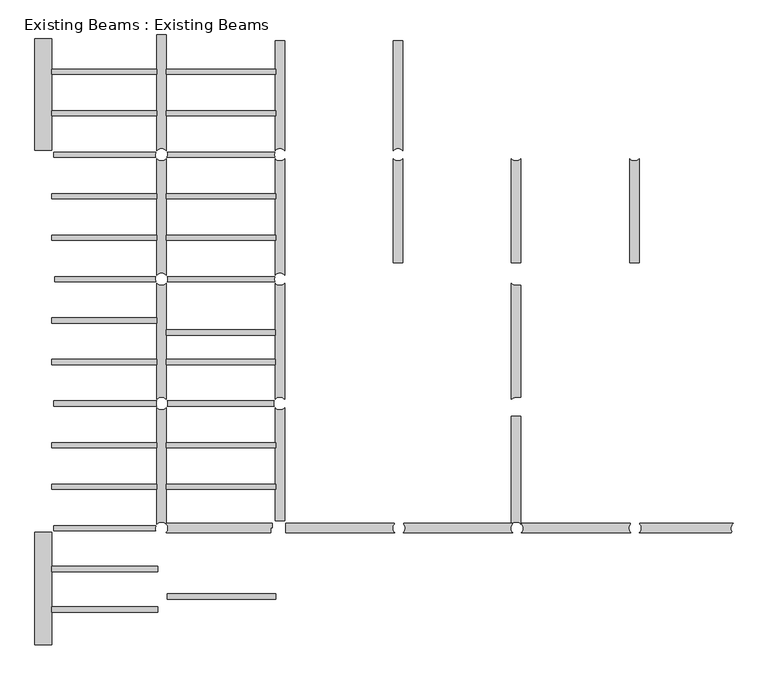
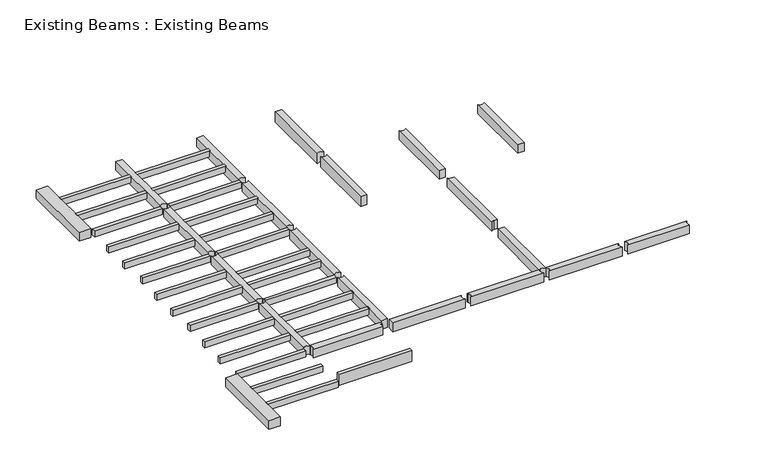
"""IFC4 building model written with IfcOpenShell, lengths in millimetres: beam geometry, Existing Beams : Existing Beams."""

from ifc_helpers import new_model, si_unit, point, frame, frame_2d, origin, place, context, project, spatial, polyline, circle_curve, trimmed, segment, composite_curve, outline, extrude, source, transform, mapped, element, save


def existing_beams_existing_beams_ab87c5f7(model_context):
    return source(origin(), model_context, "Body", "SweptSolid", [
        extrude(outline(composite_curve([segment(polyline([(13097.3653909, 93033.4914396), (8653.1375852, 93033.4914396)]), True, "CONTINUOUS"), segment(trimmed(circle_curve(frame_2d((8446.3971305, 93257.4589024)), 304.8), [point((8653.1375852, 93033.4914396))], [point((8674.9971305, 93459.0651523))], True, "CARTESIAN"), True, "CONTINUOUS"), segment(polyline([(8674.9971305, 93459.0651523), (8674.9971305, 93490.6914396), (13181.7624423, 93490.6914396)]), True, "CONTINUOUS"), segment(trimmed(circle_curve(frame_2d((13377.9909408, 93257.4589024)), 304.8), [point((13181.7624423, 93490.6914396))], [point((13112.6431486, 93107.4802734))], True, "CARTESIAN"), True, "CONTINUOUS"), segment(polyline([(13112.6431486, 93107.4802734), (13097.3653909, 93033.4914396)]), True, "CONTINUOUS")], self_intersect=False)), frame((0.0, 0.0, 2984.5), z_axis=(0.0, 0.0, 1.0), x_axis=(1.0, 0.0, 0.0)), (0.0, 0.0, 1.0), 673.1),
        extrude(outline(composite_curve([segment(trimmed(circle_curve(frame_2d((2731.3971305, 93257.4589024)), 304.8), [point((2938.1375852, 93033.4914396))], [point((2959.9971305, 93459.0651523))], True, "CARTESIAN"), True, "CONTINUOUS"), segment(polyline([(2959.9971305, 93459.0651523), (2959.9971305, 93490.6914396), (8217.7971305, 93490.6914396), (8217.7971305, 93459.0651523)]), True, "CONTINUOUS"), segment(trimmed(circle_curve(frame_2d((8446.3971305, 93257.4589024)), 304.8), [point((8217.7971305, 93459.0651523))], [point((8239.6566758, 93033.4914396))], True, "CARTESIAN"), True, "CONTINUOUS"), segment(polyline([(8239.6566758, 93033.4914396), (2938.1375852, 93033.4914396)]), True, "CONTINUOUS")], self_intersect=False)), frame((0.0, 0.0, 2984.5), z_axis=(0.0, 0.0, 1.0), x_axis=(1.0, 0.0, 0.0)), (0.0, 0.0, 1.0), 673.1),
        extrude(outline(composite_curve([segment(polyline([(2524.6566758, 93033.4914396), (-2776.8624148, 93033.4914396)]), True, "CONTINUOUS"), segment(trimmed(circle_curve(frame_2d((-2983.6028695, 93257.4589024)), 304.8), [point((-2776.8624148, 93033.4914396))], [point((-2755.0028695, 93459.0651523))], True, "CARTESIAN"), True, "CONTINUOUS"), segment(polyline([(-2755.0028695, 93459.0651523), (-2755.0028695, 93490.6914396), (2502.7971305, 93490.6914396), (2502.7971305, 93459.0651523)]), True, "CONTINUOUS"), segment(trimmed(circle_curve(frame_2d((2731.3971305, 93257.4589024)), 304.8), [point((2502.7971305, 93459.0651523))], [point((2524.6566758, 93033.4914396))], True, "CARTESIAN"), True, "CONTINUOUS")], self_intersect=False)), frame((0.0, 0.0, 2984.5), z_axis=(0.0, 0.0, 1.0), x_axis=(1.0, 0.0, 0.0)), (0.0, 0.0, 1.0), 673.1),
        extrude(outline(composite_curve([segment(polyline([(-8457.2962067, 93033.4914396), (-8457.2962067, 93490.6914396), (-3212.2028695, 93490.6914396), (-3212.2028695, 93459.0651523)]), True, "CONTINUOUS"), segment(trimmed(circle_curve(frame_2d((-2983.6028695, 93257.4589024)), 304.8), [point((-3212.2028695, 93459.0651523))], [point((-3190.3433242, 93033.4914396))], True, "CARTESIAN"), True, "CONTINUOUS"), segment(polyline([(-3190.3433242, 93033.4914396), (-8457.2962067, 93033.4914396)]), True, "CONTINUOUS")], self_intersect=False)), frame((0.0, 0.0, 2984.5), z_axis=(0.0, 0.0, 1.0), x_axis=(1.0, 0.0, 0.0)), (0.0, 0.0, 1.0), 673.1),
        extrude(outline(polyline([(-8927.2028695, 89833.0914396), (-14185.0028695, 89833.0914396), (-14185.0028695, 90087.0914396), (-8927.2028695, 90087.0914396), (-8927.2028695, 89833.0914396)])), frame((0.0, 0.0, 2794.0), z_axis=(0.0, 0.0, 1.0), x_axis=(1.0, 0.0, 0.0)), (0.0, 0.0, 1.0), 863.6),
        extrude(outline(composite_curve([segment(polyline([(-9187.1357171, 93033.4914396), (-14227.0509089, 93033.4914396), (-14227.0509089, 93055.8526525)]), True, "CONTINUOUS"), segment(trimmed(circle_curve(frame_2d((-14455.6509089, 93257.4589024)), 304.8), [point((-14227.0509089, 93055.8526525))], [point((-14227.0509089, 93459.0651523))], True, "CARTESIAN"), True, "CONTINUOUS"), segment(polyline([(-14227.0509089, 93459.0651523), (-14227.0509089, 93490.6914396), (-9093.1987679, 93490.6914396), (-9093.1987679, 93272.4591334), (-9187.1357171, 93272.4591334), (-9187.1357171, 93033.4914396)]), True, "CONTINUOUS")], self_intersect=False)), frame((0.0, 0.0, 2984.5), z_axis=(0.0, 0.0, 1.0), x_axis=(1.0, 0.0, 0.0)), (0.0, 0.0, 1.0), 673.1),
        extrude(outline(polyline([(-8927.2028695, 97148.2914396), (-14227.0509089, 97148.2914396), (-14227.0509089, 97402.2914396), (-8927.2028695, 97402.2914396), (-8927.2028695, 97148.2914396)])), frame((0.0, 0.0, 3200.4), z_axis=(0.0, 0.0, 1.0), x_axis=(1.0, 0.0, 0.0)), (0.0, 0.0, 1.0), 457.2),
        extrude(outline(polyline([(-8927.2028695, 95141.6914396), (-14227.0509089, 95141.6914396), (-14227.0509089, 95395.6914396), (-8927.2028695, 95395.6914396), (-8927.2028695, 95141.6914396)])), frame((0.0, 0.0, 3200.4), z_axis=(0.0, 0.0, 1.0), x_axis=(1.0, 0.0, 0.0)), (0.0, 0.0, 1.0), 457.2),
        extrude(outline(polyline([(-8969.2509089, 102594.2591334), (-14227.0509089, 102594.2591334), (-14227.0509089, 102848.2591334), (-8969.2509089, 102848.2591334), (-8969.2509089, 102594.2591334)])), frame((0.0, 0.0, 3200.4), z_axis=(0.0, 0.0, 1.0), x_axis=(1.0, 0.0, 0.0)), (0.0, 0.0, 1.0), 457.2),
        extrude(outline(polyline([(-8969.2509089, 101171.8591334), (-14227.0509089, 101171.8591334), (-14227.0509089, 101425.8591334), (-8969.2509089, 101425.8591334), (-8969.2509089, 101171.8591334)])), frame((0.0, 0.0, 3200.4), z_axis=(0.0, 0.0, 1.0), x_axis=(1.0, 0.0, 0.0)), (0.0, 0.0, 1.0), 457.2),
        extrude(outline(composite_curve([segment(polyline([(-9019.5481002, 99165.2591334), (-14176.3131951, 99165.2591334)]), True, "CONTINUOUS"), segment(trimmed(circle_curve(frame_2d((-14458.5510866, 99280.345243)), 304.8), [point((-14176.3131951, 99165.2591334))], [point((-14187.2468827, 99419.2591334))], True, "CARTESIAN"), True, "CONTINUOUS"), segment(polyline([(-14187.2468827, 99419.2591334), (-9015.9229109, 99419.2591334)]), True, "CONTINUOUS"), segment(trimmed(circle_curve(frame_2d((-8740.6883627, 99288.3050061)), 304.8), [point((-9015.9229109, 99419.2591334))], [point((-9019.5481002, 99165.2591334))], True, "CARTESIAN"), True, "CONTINUOUS")], self_intersect=False)), frame((0.0, 0.0, 3200.4), z_axis=(0.0, 0.0, 1.0), x_axis=(1.0, 0.0, 0.0)), (0.0, 0.0, 1.0), 457.2),
        extrude(outline(polyline([(-8927.2028695, 109191.9091334), (-14227.0509089, 109191.9091334), (-14227.0509089, 109445.9091334), (-8927.2028695, 109445.9091334), (-8927.2028695, 109191.9091334)])), frame((0.0, 0.0, 3200.4), z_axis=(0.0, 0.0, 1.0), x_axis=(1.0, 0.0, 0.0)), (0.0, 0.0, 1.0), 457.2),
        extrude(outline(polyline([(-8927.2028695, 107185.3091334), (-14227.0509089, 107185.3091334), (-14227.0509089, 107439.3091334), (-8927.2028695, 107439.3091334), (-8927.2028695, 107185.3091334)])), frame((0.0, 0.0, 3200.4), z_axis=(0.0, 0.0, 1.0), x_axis=(1.0, 0.0, 0.0)), (0.0, 0.0, 1.0), 457.2),
        extrude(outline(composite_curve([segment(polyline([(-8976.7683915, 105178.7091334), (-14180.2603927, 105178.7091334)]), True, "CONTINUOUS"), segment(trimmed(circle_curve(frame_2d((-14454.8853605, 105310.9368426)), 304.8), [point((-14180.2603927, 105178.7091334))], [point((-14175.467127, 105432.7091334))], True, "CARTESIAN"), True, "CONTINUOUS"), segment(polyline([(-14175.467127, 105432.7091334), (-8974.5749196, 105432.7091334)]), True, "CONTINUOUS"), segment(trimmed(circle_curve(frame_2d((-8698.6028695, 105303.3164461)), 304.8), [point((-8974.5749196, 105432.7091334))], [point((-8976.7683915, 105178.7091334))], True, "CARTESIAN"), True, "CONTINUOUS")], self_intersect=False)), frame((0.0, 0.0, 3200.4), z_axis=(0.0, 0.0, 1.0), x_axis=(1.0, 0.0, 0.0)), (0.0, 0.0, 1.0), 457.2),
        extrude(outline(polyline([(-8927.2028695, 115211.4141363), (-14227.0509089, 115211.4141363), (-14227.0509089, 115465.4141363), (-8927.2028695, 115465.4141363), (-8927.2028695, 115211.4141363)])), frame((0.0, 0.0, 3200.4), z_axis=(0.0, 0.0, 1.0), x_axis=(1.0, 0.0, 0.0)), (0.0, 0.0, 1.0), 457.2),
        extrude(outline(polyline([(-8927.2028695, 113204.8141363), (-14227.0509089, 113204.8141363), (-14227.0509089, 113458.8141363), (-8927.2028695, 113458.8141363), (-8927.2028695, 113204.8141363)])), frame((0.0, 0.0, 3200.4), z_axis=(0.0, 0.0, 1.0), x_axis=(1.0, 0.0, 0.0)), (0.0, 0.0, 1.0), 457.2),
        extrude(outline(composite_curve([segment(polyline([(-8975.6841572, 111198.2141363), (-14200.8014502, 111198.2141363)]), True, "CONTINUOUS"), segment(trimmed(circle_curve(frame_2d((-14465.551589, 111349.2452721)), 304.8), [point((-14200.8014502, 111198.2141363))], [point((-14178.6710337, 111452.2141363))], True, "CARTESIAN"), True, "CONTINUOUS"), segment(polyline([(-14178.6710337, 111452.2141363), (-8975.6841572, 111452.2141363)]), True, "CONTINUOUS"), segment(trimmed(circle_curve(frame_2d((-8698.6028695, 111325.2141363)), 304.8), [point((-8975.6841572, 111452.2141363))], [point((-8975.6841572, 111198.2141363))], True, "CARTESIAN"), True, "CONTINUOUS")], self_intersect=False)), frame((0.0, 0.0, 3200.4), z_axis=(0.0, 0.0, 1.0), x_axis=(1.0, 0.0, 0.0)), (0.0, 0.0, 1.0), 457.2),
        extrude(outline(polyline([(-19773.0028695, 115211.4141363), (-19773.0028695, 115465.4141363), (-14684.2509089, 115465.4141363), (-14684.2509089, 115211.4141363), (-19773.0028695, 115211.4141363)])), frame((0.0, 0.0, 3200.4), z_axis=(0.0, 0.0, 1.0), x_axis=(1.0, 0.0, 0.0)), (0.0, 0.0, 1.0), 457.2),
        extrude(outline(polyline([(-19773.0028695, 113204.8141363), (-19773.0028695, 113458.8141363), (-14684.2509089, 113458.8141363), (-14684.2509089, 113204.8141363), (-19773.0028695, 113204.8141363)])), frame((0.0, 0.0, 3200.4), z_axis=(0.0, 0.0, 1.0), x_axis=(1.0, 0.0, 0.0)), (0.0, 0.0, 1.0), 457.2),
        extrude(outline(polyline([(-19773.0028695, 109191.9091334), (-19773.0028695, 109445.9091334), (-14684.2509089, 109445.9091334), (-14684.2509089, 109191.9091334), (-19773.0028695, 109191.9091334)])), frame((0.0, 0.0, 3200.4), z_axis=(0.0, 0.0, 1.0), x_axis=(1.0, 0.0, 0.0)), (0.0, 0.0, 1.0), 457.2),
        extrude(outline(polyline([(-19773.0028695, 107185.3091334), (-19773.0028695, 107439.3091334), (-14684.2509089, 107439.3091334), (-14684.2509089, 107185.3091334), (-19773.0028695, 107185.3091334)])), frame((0.0, 0.0, 3200.4), z_axis=(0.0, 0.0, 1.0), x_axis=(1.0, 0.0, 0.0)), (0.0, 0.0, 1.0), 457.2),
        extrude(outline(polyline([(-19773.0028695, 103178.4591334), (-19773.0028695, 103432.4591334), (-14684.2509089, 103432.4591334), (-14684.2509089, 103178.4591334), (-19773.0028695, 103178.4591334)])), frame((0.0, 0.0, 3200.4), z_axis=(0.0, 0.0, 1.0), x_axis=(1.0, 0.0, 0.0)), (0.0, 0.0, 1.0), 457.2),
        extrude(outline(polyline([(-19773.0028695, 101171.8591334), (-19773.0028695, 101425.8591334), (-14684.2509089, 101425.8591334), (-14684.2509089, 101171.8591334), (-19773.0028695, 101171.8591334)])), frame((0.0, 0.0, 3200.4), z_axis=(0.0, 0.0, 1.0), x_axis=(1.0, 0.0, 0.0)), (0.0, 0.0, 1.0), 457.2),
        extrude(outline(polyline([(-19773.0028695, 97148.2914396), (-19773.0028695, 97402.2914396), (-14684.2509089, 97402.2914396), (-14684.2509089, 97148.2914396), (-19773.0028695, 97148.2914396)])), frame((0.0, 0.0, 3200.4), z_axis=(0.0, 0.0, 1.0), x_axis=(1.0, 0.0, 0.0)), (0.0, 0.0, 1.0), 457.2),
        extrude(outline(composite_curve([segment(polyline([(-19665.0528695, 111198.2141363), (-19665.0528695, 111452.2141363), (-14733.2158922, 111452.2141363)]), True, "CONTINUOUS"), segment(trimmed(circle_curve(frame_2d((-14457.3103546, 111322.679684)), 304.8), [point((-14733.2158922, 111452.2141363))], [point((-14735.5393384, 111198.2141363))], True, "CARTESIAN"), True, "CONTINUOUS"), segment(polyline([(-14735.5393384, 111198.2141363), (-19665.0528695, 111198.2141363)]), True, "CONTINUOUS")], self_intersect=False)), frame((0.0, 0.0, 3200.4), z_axis=(0.0, 0.0, 1.0), x_axis=(1.0, 0.0, 0.0)), (0.0, 0.0, 1.0), 457.2),
        extrude(outline(composite_curve([segment(polyline([(-19623.4200522, 105178.7091334), (-19623.4200522, 105432.7091334), (-14735.0660649, 105432.7091334)]), True, "CONTINUOUS"), segment(trimmed(circle_curve(frame_2d((-14456.9784287, 105307.928099)), 304.8), [point((-14735.0660649, 105432.7091334))], [point((-14733.0318636, 105178.7091334))], True, "CARTESIAN"), True, "CONTINUOUS"), segment(polyline([(-14733.0318636, 105178.7091334), (-19623.4200522, 105178.7091334)]), True, "CONTINUOUS")], self_intersect=False)), frame((0.0, 0.0, 3200.4), z_axis=(0.0, 0.0, 1.0), x_axis=(1.0, 0.0, 0.0)), (0.0, 0.0, 1.0), 457.2),
        extrude(outline(composite_curve([segment(polyline([(-19665.0528695, 99165.2591334), (-19665.0528695, 99419.2591334), (-14689.8212676, 99419.2591334)]), True, "CONTINUOUS"), segment(trimmed(circle_curve(frame_2d((-14413.6028695, 99290.3931698)), 304.8), [point((-14689.8212676, 99419.2591334))], [point((-14691.5318405, 99165.2591334))], True, "CARTESIAN"), True, "CONTINUOUS"), segment(polyline([(-14691.5318405, 99165.2591334), (-19665.0528695, 99165.2591334)]), True, "CONTINUOUS")], self_intersect=False)), frame((0.0, 0.0, 3200.4), z_axis=(0.0, 0.0, 1.0), x_axis=(1.0, 0.0, 0.0)), (0.0, 0.0, 1.0), 457.2),
        extrude(outline(polyline([(-19757.9009089, 89198.0914396), (-19757.9009089, 89452.0914396), (-14642.2028695, 89452.0914396), (-14642.2028695, 89198.0914396), (-19757.9009089, 89198.0914396)])), frame((0.0, 0.0, 3200.4), z_axis=(0.0, 0.0, 1.0), x_axis=(1.0, 0.0, 0.0)), (0.0, 0.0, 1.0), 457.2),
        extrude(outline(polyline([(-19757.9009089, 91166.5914396), (-19757.9009089, 91420.5914396), (-14642.2028695, 91420.5914396), (-14642.2028695, 91166.5914396), (-19757.9009089, 91166.5914396)])), frame((0.0, 0.0, 3200.4), z_axis=(0.0, 0.0, 1.0), x_axis=(1.0, 0.0, 0.0)), (0.0, 0.0, 1.0), 457.2),
        extrude(outline(polyline([(-19773.0028695, 95141.6914396), (-19773.0028695, 95395.6914396), (-14684.2509089, 95395.6914396), (-14684.2509089, 95141.6914396), (-19773.0028695, 95141.6914396)])), frame((0.0, 0.0, 3200.4), z_axis=(0.0, 0.0, 1.0), x_axis=(1.0, 0.0, 0.0)), (0.0, 0.0, 1.0), 457.2),
        extrude(outline(composite_curve([segment(polyline([(-19665.0528695, 93135.0914396), (-19665.0528695, 93389.0914396), (-14730.5616492, 93389.0914396)]), True, "CONTINUOUS"), segment(trimmed(circle_curve(frame_2d((-14455.6509089, 93257.4589024)), 304.8), [point((-14730.5616492, 93389.0914396))], [point((-14734.8090076, 93135.0914396))], True, "CARTESIAN"), True, "CONTINUOUS"), segment(polyline([(-14734.8090076, 93135.0914396), (-19665.0528695, 93135.0914396)]), True, "CONTINUOUS")], self_intersect=False)), frame((0.0, 0.0, 3200.4), z_axis=(0.0, 0.0, 1.0), x_axis=(1.0, 0.0, 0.0)), (0.0, 0.0, 1.0), 457.2),
        extrude(outline(composite_curve([segment(polyline([(8632.9490911, 106091.4320808), (8175.7490911, 106091.4320808), (8175.7490911, 111123.6078864)]), True, "CONTINUOUS"), segment(trimmed(circle_curve(frame_2d((8404.3490911, 111325.2141363)), 304.8), [point((8175.7490911, 111123.6078864))], [point((8632.9490911, 111123.6078864))], True, "CARTESIAN"), True, "CONTINUOUS"), segment(polyline([(8632.9490911, 111123.6078864), (8632.9490911, 106091.4320808)]), True, "CONTINUOUS")], self_intersect=False)), frame((0.0, 0.0, 2997.2), z_axis=(0.0, 0.0, 1.0), x_axis=(1.0, 0.0, 0.0)), (0.0, 0.0, 1.0), 660.4),
        extrude(outline(composite_curve([segment(polyline([(2460.7490911, 98674.6320808), (2917.9490911, 98674.6320808), (2917.9490911, 93456.6230456)]), True, "CONTINUOUS"), segment(trimmed(circle_curve(frame_2d((2689.3490911, 93262.0914396)), 300.1674628), [point((2917.9490911, 93456.6230456))], [point((2460.7490911, 93456.6230456))], True, "CARTESIAN"), True, "CONTINUOUS"), segment(polyline([(2460.7490911, 93456.6230456), (2460.7490911, 98674.6320808)]), True, "CONTINUOUS")], self_intersect=False)), frame((0.0, 0.0, 2984.5), z_axis=(0.0, 0.0, 1.0), x_axis=(1.0, 0.0, 0.0)), (0.0, 0.0, 1.0), 673.1),
        extrude(outline(composite_curve([segment(polyline([(2917.9490911, 106091.4320808), (2460.7490911, 106091.4320808), (2460.7490911, 111123.6078864)]), True, "CONTINUOUS"), segment(trimmed(circle_curve(frame_2d((2689.3490911, 111325.2141363)), 304.8), [point((2460.7490911, 111123.6078864))], [point((2917.9490911, 111123.6078864))], True, "CARTESIAN"), True, "CONTINUOUS"), segment(polyline([(2917.9490911, 111123.6078864), (2917.9490911, 106091.4320808)]), True, "CONTINUOUS")], self_intersect=False)), frame((0.0, 0.0, 2984.5), z_axis=(0.0, 0.0, 1.0), x_axis=(1.0, 0.0, 0.0)), (0.0, 0.0, 1.0), 673.1),
        extrude(outline(composite_curve([segment(polyline([(2658.56302, 104999.3579212), (2917.9490911, 104999.3579212), (2917.9490911, 99597.0591334), (2689.3530384, 99597.0591334)]), True, "CONTINUOUS"), segment(trimmed(circle_curve(frame_2d((2689.3530384, 99292.2591334)), 304.8), [point((2689.3530384, 99597.0591334))], [point((2460.7490911, 99493.8609074))], True, "CARTESIAN"), True, "CONTINUOUS"), segment(polyline([(2460.7490911, 99493.8609074), (2460.7490911, 105100.2184681)]), True, "CONTINUOUS"), segment(trimmed(circle_curve(frame_2d((2689.3530384, 105304.1579212)), 306.3512122), [point((2460.7490911, 105100.2184681))], [point((2658.56302, 104999.3579212))], True, "CARTESIAN"), True, "CONTINUOUS")], self_intersect=False)), frame((0.0, 0.0, 2984.5), z_axis=(0.0, 0.0, 1.0), x_axis=(1.0, 0.0, 0.0)), (0.0, 0.0, 1.0), 673.1),
        extrude(outline(composite_curve([segment(polyline([(-2797.0509089, 116831.1805877), (-2797.0509089, 111526.8203862)]), True, "CONTINUOUS"), segment(trimmed(circle_curve(frame_2d((-3025.6509089, 111325.2141363)), 304.8), [point((-2797.0509089, 111526.8203862))], [point((-3254.2509089, 111526.8203862))], True, "CARTESIAN"), True, "CONTINUOUS"), segment(polyline([(-3254.2509089, 111526.8203862), (-3254.2509089, 116831.1805877), (-2797.0509089, 116831.1805877)]), True, "CONTINUOUS")], self_intersect=False)), frame((0.0, 0.0, 2882.9), z_axis=(0.0, 0.0, 1.0), x_axis=(1.0, 0.0, 0.0)), (0.0, 0.0, 1.0), 774.7),
        extrude(outline(composite_curve([segment(polyline([(-2797.0509089, 106091.4320808), (-3254.2509089, 106091.4320808), (-3254.2509089, 111123.6078864)]), True, "CONTINUOUS"), segment(trimmed(circle_curve(frame_2d((-3025.6509089, 111325.2141363)), 304.8), [point((-3254.2509089, 111123.6078864))], [point((-2797.0509089, 111123.6078864))], True, "CARTESIAN"), True, "CONTINUOUS"), segment(polyline([(-2797.0509089, 111123.6078864), (-2797.0509089, 106091.4320808)]), True, "CONTINUOUS")], self_intersect=False)), frame((0.0, 0.0, 2882.9), z_axis=(0.0, 0.0, 1.0), x_axis=(1.0, 0.0, 0.0)), (0.0, 0.0, 1.0), 774.7),
        extrude(outline(composite_curve([segment(polyline([(-8512.0509089, 116831.1805877), (-8512.0509089, 111526.8203862)]), True, "CONTINUOUS"), segment(trimmed(circle_curve(frame_2d((-8740.6509089, 111325.2141363)), 304.8), [point((-8512.0509089, 111526.8203862))], [point((-8969.2509089, 111526.8203862))], True, "CARTESIAN"), True, "CONTINUOUS"), segment(polyline([(-8969.2509089, 111526.8203862), (-8969.2509089, 116831.1805877), (-8512.0509089, 116831.1805877)]), True, "CONTINUOUS")], self_intersect=False)), frame((0.0, 0.0, 2984.5), z_axis=(0.0, 0.0, 1.0), x_axis=(1.0, 0.0, 0.0)), (0.0, 0.0, 1.0), 673.1),
        extrude(outline(composite_curve([segment(polyline([(-8969.2509089, 105504.922696), (-8969.2509089, 111123.6078864)]), True, "CONTINUOUS"), segment(trimmed(circle_curve(frame_2d((-8740.6509089, 111325.2141363)), 304.8), [point((-8969.2509089, 111123.6078864))], [point((-8512.0509089, 111123.6078864))], True, "CARTESIAN"), True, "CONTINUOUS"), segment(polyline([(-8512.0509089, 111123.6078864), (-8512.0509089, 105504.922696)]), True, "CONTINUOUS"), segment(trimmed(circle_curve(frame_2d((-8740.6509089, 105303.3164461)), 304.8), [point((-8512.0509089, 105504.922696))], [point((-8969.2509089, 105504.922696))], True, "CARTESIAN"), True, "CONTINUOUS")], self_intersect=False)), frame((0.0, 0.0, 2984.5), z_axis=(0.0, 0.0, 1.0), x_axis=(1.0, 0.0, 0.0)), (0.0, 0.0, 1.0), 673.1),
        extrude(outline(composite_curve([segment(polyline([(-8969.2509089, 99491.9994198), (-8969.2509089, 105101.7101962)]), True, "CONTINUOUS"), segment(trimmed(circle_curve(frame_2d((-8740.6509089, 105303.3164461)), 304.8), [point((-8969.2509089, 105101.7101962))], [point((-8512.0509089, 105101.7101962))], True, "CARTESIAN"), True, "CONTINUOUS"), segment(polyline([(-8512.0509089, 105101.7101962), (-8512.0509089, 99491.9994198)]), True, "CONTINUOUS"), segment(trimmed(circle_curve(frame_2d((-8740.6509089, 99290.3931698)), 304.8), [point((-8512.0509089, 99491.9994198))], [point((-8969.2509089, 99491.9994198))], True, "CARTESIAN"), True, "CONTINUOUS")], self_intersect=False)), frame((0.0, 0.0, 2984.5), z_axis=(0.0, 0.0, 1.0), x_axis=(1.0, 0.0, 0.0)), (0.0, 0.0, 1.0), 673.1),
        extrude(outline(composite_curve([segment(polyline([(-8512.0509089, 93616.2616946), (-8969.2509089, 93616.2616946), (-8969.2509089, 99088.7869199)]), True, "CONTINUOUS"), segment(trimmed(circle_curve(frame_2d((-8740.6509089, 99290.3931698)), 304.8), [point((-8969.2509089, 99088.7869199))], [point((-8512.0509089, 99088.7869199))], True, "CARTESIAN"), True, "CONTINUOUS"), segment(polyline([(-8512.0509089, 99088.7869199), (-8512.0509089, 93616.2616946)]), True, "CONTINUOUS")], self_intersect=False)), frame((0.0, 0.0, 2984.5), z_axis=(0.0, 0.0, 1.0), x_axis=(1.0, 0.0, 0.0)), (0.0, 0.0, 1.0), 673.1),
        extrude(outline(composite_curve([segment(polyline([(-14227.0509089, 117117.8696624), (-14227.0509089, 111526.8203862)]), True, "CONTINUOUS"), segment(trimmed(circle_curve(frame_2d((-14455.6509089, 111325.2141363)), 304.8), [point((-14227.0509089, 111526.8203862))], [point((-14684.2509089, 111526.8203862))], True, "CARTESIAN"), True, "CONTINUOUS"), segment(polyline([(-14684.2509089, 111526.8203862), (-14684.2509089, 117117.8696624), (-14227.0509089, 117117.8696624)]), True, "CONTINUOUS")], self_intersect=False)), frame((0.0, 0.0, 3009.9), z_axis=(0.0, 0.0, 1.0), x_axis=(1.0, 0.0, 0.0)), (0.0, 0.0, 1.0), 647.7),
        extrude(outline(composite_curve([segment(polyline([(-14684.2509089, 105504.922696), (-14684.2509089, 111123.6078864)]), True, "CONTINUOUS"), segment(trimmed(circle_curve(frame_2d((-14455.6509089, 111325.2141363)), 304.8), [point((-14684.2509089, 111123.6078864))], [point((-14227.0509089, 111123.6078864))], True, "CARTESIAN"), True, "CONTINUOUS"), segment(polyline([(-14227.0509089, 111123.6078864), (-14227.0509089, 105504.922696)]), True, "CONTINUOUS"), segment(trimmed(circle_curve(frame_2d((-14455.6509089, 105303.3164461)), 304.8), [point((-14227.0509089, 105504.922696))], [point((-14684.2509089, 105504.922696))], True, "CARTESIAN"), True, "CONTINUOUS")], self_intersect=False)), frame((0.0, 0.0, 3009.9), z_axis=(0.0, 0.0, 1.0), x_axis=(1.0, 0.0, 0.0)), (0.0, 0.0, 1.0), 647.7),
        extrude(outline(composite_curve([segment(polyline([(-14684.2509089, 99491.9994198), (-14684.2509089, 105101.7101962)]), True, "CONTINUOUS"), segment(trimmed(circle_curve(frame_2d((-14455.6509089, 105303.3164461)), 304.8), [point((-14684.2509089, 105101.7101962))], [point((-14227.0509089, 105101.7101962))], True, "CARTESIAN"), True, "CONTINUOUS"), segment(polyline([(-14227.0509089, 105101.7101962), (-14227.0509089, 99491.9994198)]), True, "CONTINUOUS"), segment(trimmed(circle_curve(frame_2d((-14455.6509089, 99290.3931698)), 304.8), [point((-14227.0509089, 99491.9994198))], [point((-14684.2509089, 99491.9994198))], True, "CARTESIAN"), True, "CONTINUOUS")], self_intersect=False)), frame((0.0, 0.0, 3009.9), z_axis=(0.0, 0.0, 1.0), x_axis=(1.0, 0.0, 0.0)), (0.0, 0.0, 1.0), 647.7),
        extrude(outline(composite_curve([segment(polyline([(-14684.2509089, 93459.0651523), (-14684.2509089, 99088.7869199)]), True, "CONTINUOUS"), segment(trimmed(circle_curve(frame_2d((-14455.6509089, 99290.3931698)), 304.8), [point((-14684.2509089, 99088.7869199))], [point((-14227.0509089, 99088.7869199))], True, "CARTESIAN"), True, "CONTINUOUS"), segment(polyline([(-14227.0509089, 99088.7869199), (-14227.0509089, 93459.0651523)]), True, "CONTINUOUS"), segment(trimmed(circle_curve(frame_2d((-14455.6509089, 93257.4589024)), 304.8), [point((-14227.0509089, 93459.0651523))], [point((-14684.2509089, 93459.0651523))], True, "CARTESIAN"), True, "CONTINUOUS")], self_intersect=False)), frame((0.0, 0.0, 3009.9), z_axis=(0.0, 0.0, 1.0), x_axis=(1.0, 0.0, 0.0)), (0.0, 0.0, 1.0), 647.7),
        extrude(outline(polyline([(-19757.9009089, 116940.3709578), (-19757.9009089, 111542.4557357), (-20583.4009089, 111542.4557357), (-20583.4009089, 116940.3709578), (-19757.9009089, 116940.3709578)])), frame((0.0, 0.0, 2984.5), z_axis=(0.0, 0.0, 1.0), x_axis=(1.0, 0.0, 0.0)), (0.0, 0.0, 1.0), 673.1),
        extrude(outline(polyline([(-20583.4009089, 93065.3323758), (-19757.9009089, 93065.3323758), (-19757.9009089, 87627.3091334), (-20583.4009089, 87627.3091334), (-20583.4009089, 93065.3323758)])), frame((0.0, 0.0, 2984.5), z_axis=(0.0, 0.0, 1.0), x_axis=(1.0, 0.0, 0.0)), (0.0, 0.0, 1.0), 673.1),
    ])


if __name__ == "__main__":
    model = new_model("IFC4")
    model_context = context("Model", 3, world=origin())
    ifc_project = project(units=[si_unit("LENGTHUNIT", "METRE", prefix="MILLI")], contexts=[model_context])
    site = spatial("IfcSite", under=ifc_project)
    building = spatial("IfcBuilding", under=site)
    placement = place(None, origin())
    existing_beams_existing_beams_shape = existing_beams_existing_beams_ab87c5f7(model_context)
    element("IfcBeam", 1, ObjectType="Existing Beams : Existing Beams", at=placement, inside=building, context=model_context, shape_type="MappedRepresentation", body=[
        mapped(existing_beams_existing_beams_shape, transform((0.0, 0.0, 0.0), x_axis=(1.0, 0.0, 0.0), y_axis=(0.0, 1.0, 0.0), z_axis=(0.0, 0.0, 1.0))),
    ])
    save(model, "model.ifc")
